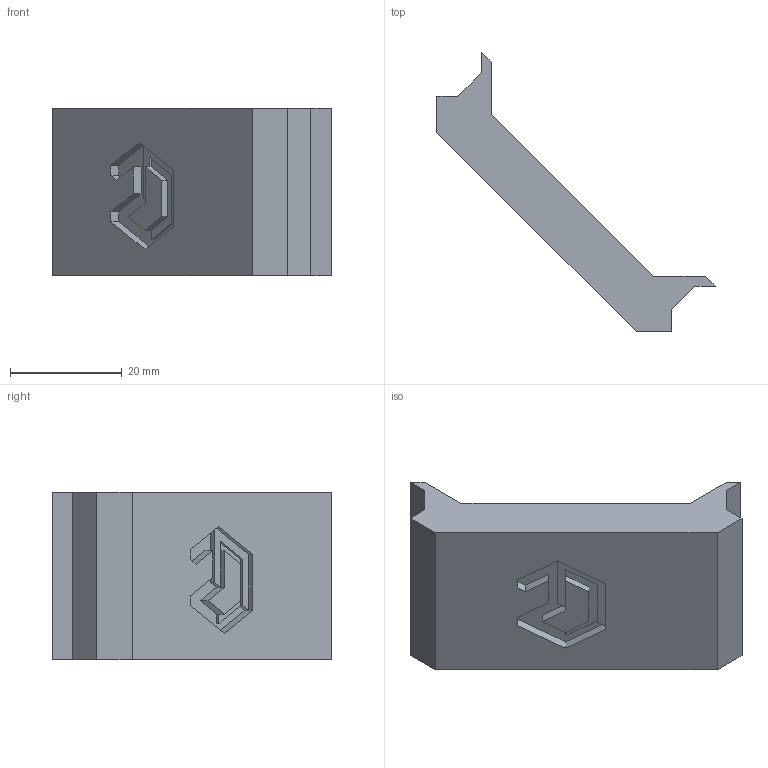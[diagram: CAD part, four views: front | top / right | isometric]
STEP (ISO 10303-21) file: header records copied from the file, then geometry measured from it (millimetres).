
FILE_DESCRIPTION(/* description */ (''),/* implementation_level */ '2;1');
FILE_NAME(/* name */ 'C:\Users\diederichbenedict\Dropbox\Dokumente\Promotion\PROJECTS\openUC2-CAD\INVENTOR\20_Cube_Insert_Mirror_Holder_wLogo_Astromedia_30x40x1_v3.stp',/* time_stamp */ '2023-09-08T14:06:14+02:00',/* author */ ('diederichbenedict'),/* organization */ (''),/* preprocessor_version */ 'ST-DEVELOPER v18.1',/* originating_system */ 'Autodesk Inventor 2022',/* authorisation */ '');
FILE_SCHEMA (('AUTOMOTIVE_DESIGN { 1 0 10303 214 3 1 1 }'));
Length unit declared in the file: millimetre
Products named in the file (1): 20_Cube_Insert_Mirror_Holder_wLogo_Astromedia_30x40x1_v3
Bounding box: 49.78 x 49.9 x 30 mm (x, y, z)
Volume: 16375.5 mm3; surface area: 5934.4 mm2
Topology: 1 solids, 1 shells, 45 faces, 120 edges, 78 vertices
Faces by surface type: plane 45
Entity records: 1407 total; most frequent: CARTESIAN_POINT 244, ORIENTED_EDGE 240, DIRECTION 212, LINE 120, VECTOR 120, EDGE_CURVE 120, VERTEX_POINT 78, EDGE_LOOP 46
